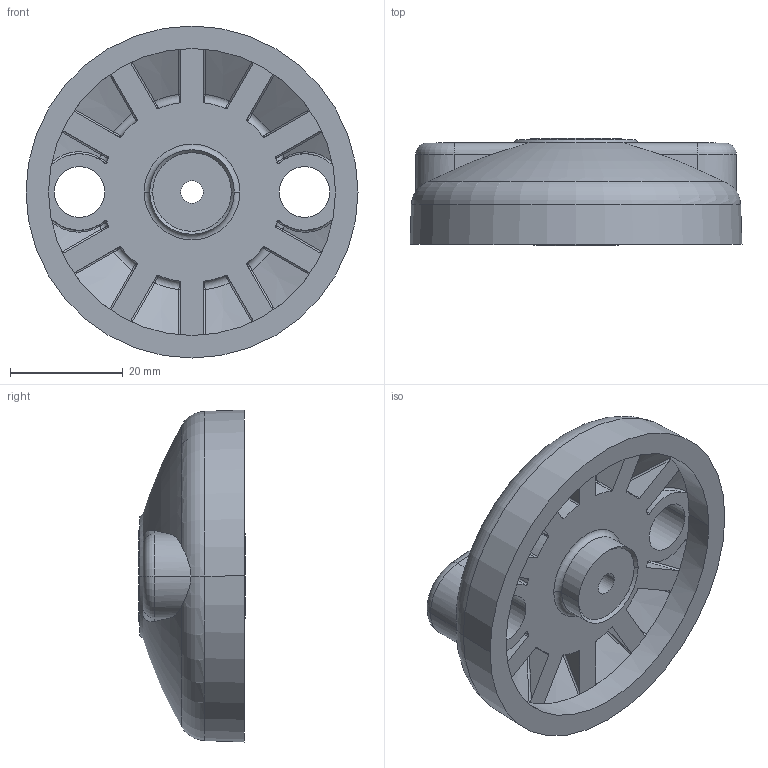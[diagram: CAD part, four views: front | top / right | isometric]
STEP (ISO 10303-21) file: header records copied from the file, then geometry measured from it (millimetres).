
FILE_DESCRIPTION(('STEP AP214'),'1');
FILE_NAME('C:/Program Files (x86)/Trace Software/PartsXML Tools/RobotPartsAuto/FATH/CAD/Temp/FATH_098D060ZS.stp','2016-05-30T14:05:56',('TraceParts'),('TraceParts S.A.'),'Spatial InterOp 3D',' ',' ');
FILE_SCHEMA(('automotive_design'));
Length unit declared in the file: millimetre
Products named in the file (2): 098d060zs|NAUO1#098d060zr_098D060ZR;V5-2; 098d060zs|NAUO2#098xd2_Standard;F2-0,5x30
Bounding box: 59 x 19 x 59 mm (x, y, z)
Volume: 25992.9 mm3; surface area: 11446.5 mm2
Topology: 2 solids, 2 shells, 215 faces, 516 edges, 308 vertices
Faces by surface type: cylinder 74, bspline 48, plane 33, cone 30, torus 28, sphere 2
Entity records: 9916 total; most frequent: CARTESIAN_POINT 3417, ORIENTED_EDGE 1032, DIRECTION 972, EDGE_CURVE 516, AXIS2_PLACEMENT_3D 423, VERTEX_POINT 308, CIRCLE 254, EDGE_LOOP 226
